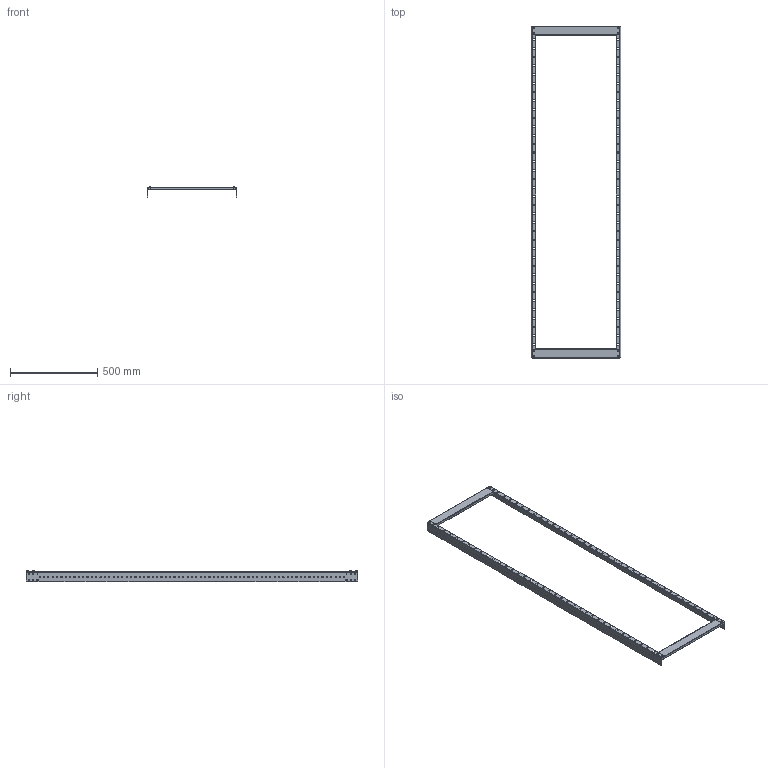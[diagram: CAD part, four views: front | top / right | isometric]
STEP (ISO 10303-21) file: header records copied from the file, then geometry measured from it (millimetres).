
FILE_DESCRIPTION (( 'STEP AP214' ), '1' );
FILE_NAME ('RMD 200.60.STEP', '2024-06-26T13:42:48', ( '' ), ( '' ), 'SwSTEP 2.0', 'SolidWorks 2019', '' );
FILE_SCHEMA (( 'AUTOMOTIVE_DESIGN' ));
Length unit declared in the file: millimetre
Products named in the file (1): RMD 200.60
Bounding box: 512 x 1907 x 63.2 mm (x, y, z)
Volume: 675260.7 mm3; surface area: 770061.9 mm2
Topology: 12 solids, 12 shells, 1094 faces, 3126 edges, 2056 vertices
Faces by surface type: cylinder 528, plane 494, cone 40, bspline 32
Entity records: 53405 total; most frequent: CARTESIAN_POINT 11829, ORIENTED_EDGE 6220, DIRECTION 5804, EDGE_CURVE 3110, VERTEX_POINT 2056, AXIS2_PLACEMENT_3D 1983, LINE 1838, VECTOR 1838
